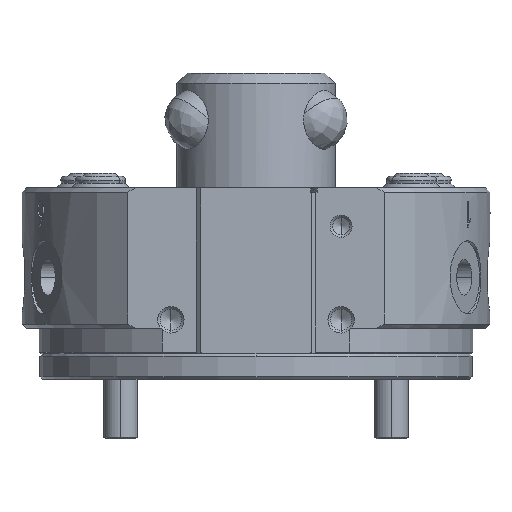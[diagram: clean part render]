
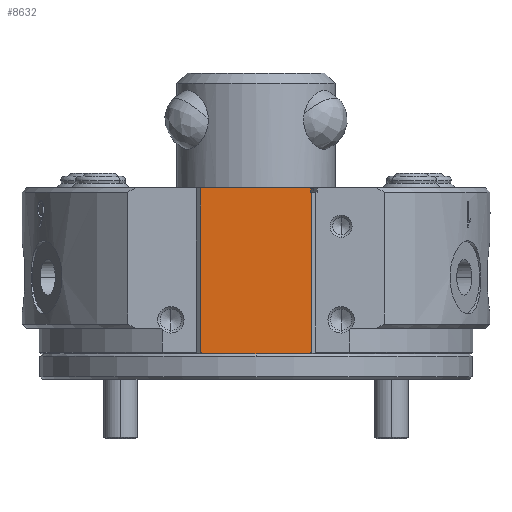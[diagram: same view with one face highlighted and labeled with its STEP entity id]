
A CAD part, front view. The second image highlights one B-rep face of the part: STEP entity #8632.
In plain terms, the highlighted planar face has unit normal (0, -1, 0).
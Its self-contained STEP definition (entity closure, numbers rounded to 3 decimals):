
#620 = ORIENTED_EDGE ( 'NONE', *, *, #18477, .F. ) ;
#1233 = VECTOR ( 'NONE', #17112, 1000. ) ;
#1364 = CARTESIAN_POINT ( 'NONE',  ( -5.91, -24.6, -33. ) ) ;
#1546 = FACE_OUTER_BOUND ( 'NONE', #20401, .T. ) ;
#1995 = CARTESIAN_POINT ( 'NONE',  ( -7., -24.6, -13.5 ) ) ;
#2398 = ORIENTED_EDGE ( 'NONE', *, *, #9873, .F. ) ;
#2414 = VERTEX_POINT ( 'NONE', #3946 ) ;
#2630 = VERTEX_POINT ( 'NONE', #9994 ) ;
#2651 = CARTESIAN_POINT ( 'NONE',  ( 5.91, -24.6, -33. ) ) ;
#2671 = CARTESIAN_POINT ( 'NONE',  ( 6.43, -24.6, -13.5 ) ) ;
#2846 = DIRECTION ( 'NONE',  ( -1., 0., 0. ) ) ;
#3042 = CARTESIAN_POINT ( 'NONE',  ( 0., -24.6, -33. ) ) ;
#3946 = CARTESIAN_POINT ( 'NONE',  ( -6.5, -24.6, -32.856 ) ) ;
#4935 = CARTESIAN_POINT ( 'NONE',  ( 0., -24.6, -14. ) ) ;
#4979 = VERTEX_POINT ( 'NONE', #2651 ) ;
#5380 = AXIS2_PLACEMENT_3D ( 'NONE', #13698, #13646, #13560 ) ;
#5759 = VECTOR ( 'NONE', #15928, 1000. ) ;
#5908 = CARTESIAN_POINT ( 'NONE',  ( 6.5, -24.6, -14. ) ) ;
#6085 = ORIENTED_EDGE ( 'NONE', *, *, #24060, .T. ) ;
#6151 = VERTEX_POINT ( 'NONE', #2671 ) ;
#6472 = ORIENTED_EDGE ( 'NONE', *, *, #11046, .T. ) ;
#6697 = VECTOR ( 'NONE', #23842, 1000. ) ;
#7548 = DIRECTION ( 'NONE',  ( 0., 0., -1. ) ) ;
#7584 = CARTESIAN_POINT ( 'NONE',  ( 6.5, -24.6, -33. ) ) ;
#7882 = ORIENTED_EDGE ( 'NONE', *, *, #13718, .F. ) ;
#7919 = B_SPLINE_CURVE_WITH_KNOTS ( 'NONE', 3,
 ( #11357, #11176, #11441, #11490 ),
 .UNSPECIFIED., .F., .F.,
 ( 4, 4 ),
 ( 0., 1. ),
 .UNSPECIFIED. ) ;
#8380 = VECTOR ( 'NONE', #7548, 1000. ) ;
#8632 = ADVANCED_FACE ( 'NONE', ( #1546 ), #14790, .F. ) ;
#9374 = VERTEX_POINT ( 'NONE', #20609 ) ;
#9873 = EDGE_CURVE ( 'NONE', #2414, #2630, #12019, .T. ) ;
#9994 = CARTESIAN_POINT ( 'NONE',  ( -6.5, -24.6, -13.5 ) ) ;
#10468 = LINE ( 'NONE', #1995, #5759 ) ;
#10847 = ORIENTED_EDGE ( 'NONE', *, *, #17357, .F. ) ;
#10890 = VERTEX_POINT ( 'NONE', #5908 ) ;
#11046 = EDGE_CURVE ( 'NONE', #9374, #6151, #11981, .T. ) ;
#11137 = VERTEX_POINT ( 'NONE', #23964 ) ;
#11176 = CARTESIAN_POINT ( 'NONE',  ( -6.107, -24.6, -32.954 ) ) ;
#11357 = CARTESIAN_POINT ( 'NONE',  ( -5.91, -24.6, -33. ) ) ;
#11441 = CARTESIAN_POINT ( 'NONE',  ( -6.303, -24.6, -32.906 ) ) ;
#11490 = CARTESIAN_POINT ( 'NONE',  ( -6.5, -24.6, -32.856 ) ) ;
#11981 = LINE ( 'NONE', #13047, #16646 ) ;
#12019 = LINE ( 'NONE', #18690, #6697 ) ;
#12681 = VECTOR ( 'NONE', #2846, 1000. ) ;
#13047 = CARTESIAN_POINT ( 'NONE',  ( 6.43, -24.6, -14. ) ) ;
#13124 = CARTESIAN_POINT ( 'NONE',  ( 0., -24.6, -33. ) ) ;
#13560 = DIRECTION ( 'NONE',  ( 0., 0., 1. ) ) ;
#13646 = DIRECTION ( 'NONE',  ( 0., 1., 0. ) ) ;
#13698 = CARTESIAN_POINT ( 'NONE',  ( -7., -24.6, -33. ) ) ;
#13718 = EDGE_CURVE ( 'NONE', #11137, #4979, #17914, .T. ) ;
#14013 = DIRECTION ( 'NONE',  ( 0., 0., 1. ) ) ;
#14790 = PLANE ( 'NONE',  #5380 ) ;
#15153 = EDGE_CURVE ( 'NONE', #10890, #11137, #18941, .T. ) ;
#15622 = VERTEX_POINT ( 'NONE', #1364 ) ;
#15847 = EDGE_CURVE ( 'NONE', #15622, #2414, #7919, .T. ) ;
#15928 = DIRECTION ( 'NONE',  ( 1., 0., 0. ) ) ;
#16044 = EDGE_CURVE ( 'NONE', #22302, #15622, #21014, .T. ) ;
#16646 = VECTOR ( 'NONE', #14013, 1000. ) ;
#16795 = ORIENTED_EDGE ( 'NONE', *, *, #18817, .F. ) ;
#17074 = CARTESIAN_POINT ( 'NONE',  ( -7., -24.6, -33. ) ) ;
#17112 = DIRECTION ( 'NONE',  ( -1., 0., 0. ) ) ;
#17357 = EDGE_CURVE ( 'NONE', #17892, #22302, #17920, .T. ) ;
#17892 = VERTEX_POINT ( 'NONE', #18082 ) ;
#17914 = B_SPLINE_CURVE_WITH_KNOTS ( 'NONE', 3,
 ( #18417, #18362, #18298, #18236 ),
 .UNSPECIFIED., .F., .F.,
 ( 4, 4 ),
 ( 0., 1. ),
 .UNSPECIFIED. ) ;
#17920 = LINE ( 'NONE', #3042, #12681 ) ;
#18082 = CARTESIAN_POINT ( 'NONE',  ( 4.985, -24.6, -33. ) ) ;
#18171 = VECTOR ( 'NONE', #20933, 1000. ) ;
#18236 = CARTESIAN_POINT ( 'NONE',  ( 5.91, -24.6, -33. ) ) ;
#18298 = CARTESIAN_POINT ( 'NONE',  ( 6.107, -24.6, -32.954 ) ) ;
#18362 = CARTESIAN_POINT ( 'NONE',  ( 6.303, -24.6, -32.906 ) ) ;
#18417 = CARTESIAN_POINT ( 'NONE',  ( 6.5, -24.6, -32.856 ) ) ;
#18477 = EDGE_CURVE ( 'NONE', #2630, #6151, #10468, .T. ) ;
#18690 = CARTESIAN_POINT ( 'NONE',  ( -6.5, -24.6, -33. ) ) ;
#18795 = LINE ( 'NONE', #13124, #18171 ) ;
#18817 = EDGE_CURVE ( 'NONE', #4979, #17892, #18795, .T. ) ;
#18941 = LINE ( 'NONE', #7584, #8380 ) ;
#19318 = ORIENTED_EDGE ( 'NONE', *, *, #15153, .F. ) ;
#19990 = LINE ( 'NONE', #4935, #20588 ) ;
#20401 = EDGE_LOOP ( 'NONE', ( #6472, #620, #2398, #25250, #20645, #10847, #16795, #7882, #19318, #6085 ) ) ;
#20588 = VECTOR ( 'NONE', #20784, 1000. ) ;
#20609 = CARTESIAN_POINT ( 'NONE',  ( 6.43, -24.6, -14. ) ) ;
#20645 = ORIENTED_EDGE ( 'NONE', *, *, #16044, .F. ) ;
#20784 = DIRECTION ( 'NONE',  ( -1., 0., 0. ) ) ;
#20933 = DIRECTION ( 'NONE',  ( -1., 0., 0. ) ) ;
#21014 = LINE ( 'NONE', #17074, #1233 ) ;
#22218 = CARTESIAN_POINT ( 'NONE',  ( -4.985, -24.6, -33. ) ) ;
#22302 = VERTEX_POINT ( 'NONE', #22218 ) ;
#23842 = DIRECTION ( 'NONE',  ( 0., 0., 1. ) ) ;
#23964 = CARTESIAN_POINT ( 'NONE',  ( 6.5, -24.6, -32.856 ) ) ;
#24060 = EDGE_CURVE ( 'NONE', #10890, #9374, #19990, .T. ) ;
#25250 = ORIENTED_EDGE ( 'NONE', *, *, #15847, .F. ) ;
